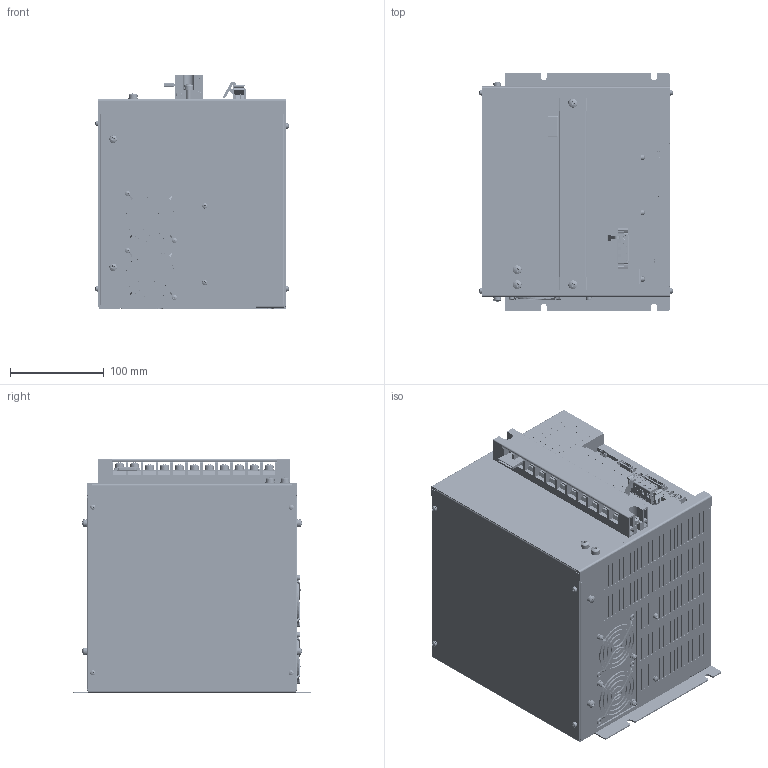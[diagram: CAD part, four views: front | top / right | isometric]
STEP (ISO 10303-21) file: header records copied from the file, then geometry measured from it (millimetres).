
FILE_DESCRIPTION (( 'STEP AP203' ), '1' );
FILE_NAME ('NCR-HA3_702#SE-97670.STEP', '2021-07-07T04:28:13', ( '' ), ( '' ), 'SwSTEP 2.0', 'SolidWorks 2018', '' );
FILE_SCHEMA (( 'CONFIG_CONTROL_DESIGN' ));
Products named in the file (1): NCR-HA3_702#SE-97670
Bounding box: 207.11 x 255 x 251 mm (x, y, z)
Volume: 10107013.6 mm3; surface area: 413916.8 mm2
Topology: 4 solids, 41 shells, 10950 faces, 29190 edges, 18994 vertices
Faces by surface type: plane 6740, cylinder 1870, bspline 1546, cone 554, torus 160, sphere 80
Entity records: 386625 total; most frequent: CARTESIAN_POINT 120088, ORIENTED_EDGE 58204, DIRECTION 50461, EDGE_CURVE 29102, LINE 19315, VECTOR 19315, VERTEX_POINT 18994, AXIS2_PLACEMENT_3D 15573
